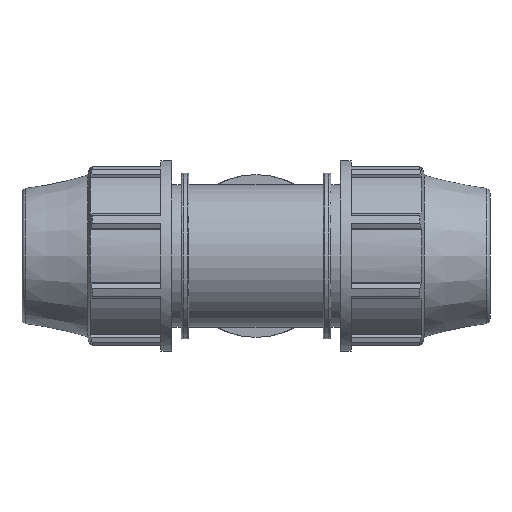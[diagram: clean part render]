
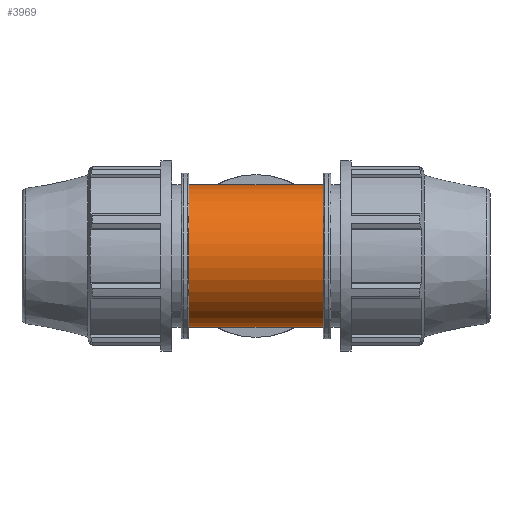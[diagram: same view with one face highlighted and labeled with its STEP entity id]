
A CAD part, front view. The second image highlights one B-rep face of the part: STEP entity #3969.
In plain terms, the highlighted cylindrical face has radius 36.005 mm (diameter 72.009 mm), a full revolution.
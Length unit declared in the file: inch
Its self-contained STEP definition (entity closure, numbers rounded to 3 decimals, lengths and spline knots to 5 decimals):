
#221=FACE_BOUND('',#441,.T.);
#239=FACE_OUTER_BOUND('',#440,.T.);
#440=EDGE_LOOP('',(#2539,#2540,#2541,#2542,#2543,#2544));
#441=EDGE_LOOP('',(#2545,#2546));
#658=B_SPLINE_CURVE_WITH_KNOTS('',3,(#5809,#5810,#5811,#5812,#5813,#5814,
#5815,#5816,#5817,#5818,#5819,#5820,#5821,#5822,#5823,#5824,#5825,#5826),
 .UNSPECIFIED.,.F.,.F.,(4,2,2,2,2,2,2,2,4),(0.,0.64834,1.29667,
1.94501,2.59334,3.2103,3.82725,4.44421,
5.06117),.UNSPECIFIED.);
#659=B_SPLINE_CURVE_WITH_KNOTS('',3,(#5827,#5828,#5829,#5830,#5831,#5832,
#5833,#5834,#5835,#5836,#5837,#5838,#5839,#5840,#5841,#5842,#5843,#5844,
#5845,#5846,#5847,#5848,#5849,#5850,#5851,#5852,#5853,#5854,#5855,#5856,
#5857,#5858,#5859,#5860,#5861,#5862,#5863,#5864,#5865,#5866,#5867,#5868,
#5869,#5870,#5871,#5872,#5873,#5874,#5875,#5876),.UNSPECIFIED.,.F.,.F.,
(4,2,2,2,2,2,2,2,2,2,2,2,2,2,2,2,2,2,2,2,2,2,2,2,4),(5.06117,5.67812,
6.29508,6.91204,7.529,8.17733,8.82567,
9.474,10.12234,10.77067,11.41901,12.06734,
12.71568,13.33263,13.94959,14.56655,15.1835,
15.80046,16.41742,17.03437,17.65133,18.29967,
18.948,19.59634,20.24467),.UNSPECIFIED.);
#669=LINE('',#5803,#990);
#990=VECTOR('',#4625,1.4175);
#1314=CIRCLE('',#4195,1.4175);
#1315=CIRCLE('',#4196,1.4175);
#1316=CIRCLE('',#4197,1.4175);
#1317=CIRCLE('',#4198,1.4175);
#1531=VERTEX_POINT('',#5798);
#1532=VERTEX_POINT('',#5799);
#1533=VERTEX_POINT('',#5802);
#1534=VERTEX_POINT('',#5804);
#1535=VERTEX_POINT('',#5807);
#1536=VERTEX_POINT('',#5808);
#1942=EDGE_CURVE('',#1531,#1532,#1314,.T.);
#1943=EDGE_CURVE('',#1532,#1531,#1315,.T.);
#1944=EDGE_CURVE('',#1532,#1533,#669,.T.);
#1945=EDGE_CURVE('',#1533,#1534,#1316,.T.);
#1946=EDGE_CURVE('',#1534,#1533,#1317,.T.);
#1947=EDGE_CURVE('',#1535,#1536,#658,.T.);
#1948=EDGE_CURVE('',#1536,#1535,#659,.T.);
#2539=ORIENTED_EDGE('',*,*,#1942,.F.);
#2540=ORIENTED_EDGE('',*,*,#1943,.F.);
#2541=ORIENTED_EDGE('',*,*,#1944,.T.);
#2542=ORIENTED_EDGE('',*,*,#1945,.T.);
#2543=ORIENTED_EDGE('',*,*,#1946,.T.);
#2544=ORIENTED_EDGE('',*,*,#1944,.F.);
#2545=ORIENTED_EDGE('',*,*,#1947,.F.);
#2546=ORIENTED_EDGE('',*,*,#1948,.F.);
#3725=CYLINDRICAL_SURFACE('',#4194,1.4175);
#3969=ADVANCED_FACE('',(#239,#221),#3725,.T.);
#4194=AXIS2_PLACEMENT_3D('',#5797,#4619,#4620);
#4195=AXIS2_PLACEMENT_3D('',#5800,#4621,#4622);
#4196=AXIS2_PLACEMENT_3D('',#5801,#4623,#4624);
#4197=AXIS2_PLACEMENT_3D('',#5805,#4626,#4627);
#4198=AXIS2_PLACEMENT_3D('',#5806,#4628,#4629);
#4619=DIRECTION('center_axis',(1.,0.,0.));
#4620=DIRECTION('ref_axis',(0.,1.,0.));
#4621=DIRECTION('center_axis',(1.,0.,0.));
#4622=DIRECTION('ref_axis',(0.,0.,-1.));
#4623=DIRECTION('center_axis',(1.,0.,0.));
#4624=DIRECTION('ref_axis',(0.,0.,-1.));
#4625=DIRECTION('',(-1.,0.,0.));
#4626=DIRECTION('center_axis',(1.,0.,0.));
#4627=DIRECTION('ref_axis',(0.,0.,-1.));
#4628=DIRECTION('center_axis',(1.,0.,0.));
#4629=DIRECTION('ref_axis',(0.,0.,-1.));
#5797=CARTESIAN_POINT('Origin',(0.94448,0.,0.));
#5798=CARTESIAN_POINT('',(1.33157,1.4175,0.));
#5799=CARTESIAN_POINT('',(1.33157,-1.4175,0.));
#5800=CARTESIAN_POINT('Origin',(1.33157,0.,0.));
#5801=CARTESIAN_POINT('Origin',(1.33157,0.,0.));
#5802=CARTESIAN_POINT('',(-1.33157,-1.4175,0.));
#5803=CARTESIAN_POINT('',(0.94448,-1.4175,0.));
#5804=CARTESIAN_POINT('',(-1.33157,1.4175,0.));
#5805=CARTESIAN_POINT('Origin',(-1.33157,0.,0.));
#5806=CARTESIAN_POINT('Origin',(-1.33157,0.,0.));
#5807=CARTESIAN_POINT('',(0.,0.73633,1.21125));
#5808=CARTESIAN_POINT('',(1.21125,1.4175,0.));
#5809=CARTESIAN_POINT('Ctrl Pts',(0.,0.73633,
1.21125));
#5810=CARTESIAN_POINT('Ctrl Pts',(0.08508,0.73633,
1.21125));
#5811=CARTESIAN_POINT('Ctrl Pts',(0.16757,0.75141,1.20233));
#5812=CARTESIAN_POINT('Ctrl Pts',(0.32613,0.8018,1.16933));
#5813=CARTESIAN_POINT('Ctrl Pts',(0.40229,0.83684,1.14521));
#5814=CARTESIAN_POINT('Ctrl Pts',(0.5473,0.91543,1.08342));
#5815=CARTESIAN_POINT('Ctrl Pts',(0.61616,0.95897,1.04569));
#5816=CARTESIAN_POINT('Ctrl Pts',(0.74425,1.04589,0.95875));
#5817=CARTESIAN_POINT('Ctrl Pts',(0.80346,1.08928,0.9095));
#5818=CARTESIAN_POINT('Ctrl Pts',(0.90694,1.16775,0.80603));
#5819=CARTESIAN_POINT('Ctrl Pts',(0.95546,1.20599,0.74846));
#5820=CARTESIAN_POINT('Ctrl Pts',(1.04278,1.27628,0.62105));
#5821=CARTESIAN_POINT('Ctrl Pts',(1.08158,1.30832,0.5512));
#5822=CARTESIAN_POINT('Ctrl Pts',(1.14513,1.36132,0.40287));
#5823=CARTESIAN_POINT('Ctrl Pts',(1.16994,1.38234,0.32422));
#5824=CARTESIAN_POINT('Ctrl Pts',(1.203,1.41043,0.16327));
#5825=CARTESIAN_POINT('Ctrl Pts',(1.21125,1.4175,0.08097));
#5826=CARTESIAN_POINT('Ctrl Pts',(1.21125,1.4175,0.));
#5827=CARTESIAN_POINT('Ctrl Pts',(1.21125,1.4175,0.));
#5828=CARTESIAN_POINT('Ctrl Pts',(1.21125,1.4175,-0.08097));
#5829=CARTESIAN_POINT('Ctrl Pts',(1.203,1.41043,-0.16327));
#5830=CARTESIAN_POINT('Ctrl Pts',(1.16994,1.38234,-0.32422));
#5831=CARTESIAN_POINT('Ctrl Pts',(1.14513,1.36132,-0.40287));
#5832=CARTESIAN_POINT('Ctrl Pts',(1.08158,1.30832,-0.5512));
#5833=CARTESIAN_POINT('Ctrl Pts',(1.04278,1.27628,-0.62105));
#5834=CARTESIAN_POINT('Ctrl Pts',(0.95546,1.20599,-0.74846));
#5835=CARTESIAN_POINT('Ctrl Pts',(0.90694,1.16775,-0.80603));
#5836=CARTESIAN_POINT('Ctrl Pts',(0.80346,1.08928,-0.9095));
#5837=CARTESIAN_POINT('Ctrl Pts',(0.74425,1.04589,-0.95875));
#5838=CARTESIAN_POINT('Ctrl Pts',(0.61616,0.95897,-1.04569));
#5839=CARTESIAN_POINT('Ctrl Pts',(0.5473,0.91543,-1.08342));
#5840=CARTESIAN_POINT('Ctrl Pts',(0.40229,0.83684,-1.14521));
#5841=CARTESIAN_POINT('Ctrl Pts',(0.32613,0.8018,-1.16933));
#5842=CARTESIAN_POINT('Ctrl Pts',(0.16757,0.75141,-1.20233));
#5843=CARTESIAN_POINT('Ctrl Pts',(0.08508,0.73633,
-1.21125));
#5844=CARTESIAN_POINT('Ctrl Pts',(-0.08508,0.73633,
-1.21125));
#5845=CARTESIAN_POINT('Ctrl Pts',(-0.16757,0.75141,
-1.20233));
#5846=CARTESIAN_POINT('Ctrl Pts',(-0.32613,0.8018,
-1.16933));
#5847=CARTESIAN_POINT('Ctrl Pts',(-0.40229,0.83684,-1.14521));
#5848=CARTESIAN_POINT('Ctrl Pts',(-0.5473,0.91543,
-1.08342));
#5849=CARTESIAN_POINT('Ctrl Pts',(-0.61616,0.95897,
-1.04569));
#5850=CARTESIAN_POINT('Ctrl Pts',(-0.74425,1.04589,-0.95875));
#5851=CARTESIAN_POINT('Ctrl Pts',(-0.80346,1.08928,-0.9095));
#5852=CARTESIAN_POINT('Ctrl Pts',(-0.90694,1.16775,-0.80603));
#5853=CARTESIAN_POINT('Ctrl Pts',(-0.95546,1.20599,-0.74846));
#5854=CARTESIAN_POINT('Ctrl Pts',(-1.04278,1.27628,-0.62105));
#5855=CARTESIAN_POINT('Ctrl Pts',(-1.08158,1.30832,-0.5512));
#5856=CARTESIAN_POINT('Ctrl Pts',(-1.14513,1.36132,-0.40287));
#5857=CARTESIAN_POINT('Ctrl Pts',(-1.16994,1.38234,-0.32422));
#5858=CARTESIAN_POINT('Ctrl Pts',(-1.203,1.41043,-0.16327));
#5859=CARTESIAN_POINT('Ctrl Pts',(-1.21125,1.4175,-0.08097));
#5860=CARTESIAN_POINT('Ctrl Pts',(-1.21125,1.4175,0.08097));
#5861=CARTESIAN_POINT('Ctrl Pts',(-1.203,1.41043,0.16327));
#5862=CARTESIAN_POINT('Ctrl Pts',(-1.16994,1.38234,0.32422));
#5863=CARTESIAN_POINT('Ctrl Pts',(-1.14513,1.36132,0.40287));
#5864=CARTESIAN_POINT('Ctrl Pts',(-1.08158,1.30832,0.5512));
#5865=CARTESIAN_POINT('Ctrl Pts',(-1.04278,1.27628,0.62105));
#5866=CARTESIAN_POINT('Ctrl Pts',(-0.95546,1.20599,0.74846));
#5867=CARTESIAN_POINT('Ctrl Pts',(-0.90694,1.16775,0.80603));
#5868=CARTESIAN_POINT('Ctrl Pts',(-0.80346,1.08928,0.9095));
#5869=CARTESIAN_POINT('Ctrl Pts',(-0.74425,1.04589,0.95875));
#5870=CARTESIAN_POINT('Ctrl Pts',(-0.61616,0.95897,
1.04569));
#5871=CARTESIAN_POINT('Ctrl Pts',(-0.5473,0.91543,
1.08342));
#5872=CARTESIAN_POINT('Ctrl Pts',(-0.40229,0.83684,1.14521));
#5873=CARTESIAN_POINT('Ctrl Pts',(-0.32613,0.8018,
1.16933));
#5874=CARTESIAN_POINT('Ctrl Pts',(-0.16757,0.75141,
1.20233));
#5875=CARTESIAN_POINT('Ctrl Pts',(-0.08508,0.73633,
1.21125));
#5876=CARTESIAN_POINT('Ctrl Pts',(0.,0.73633,
1.21125));
